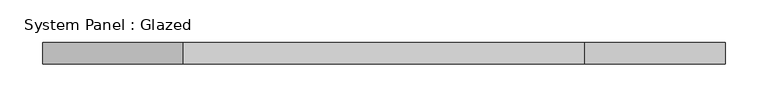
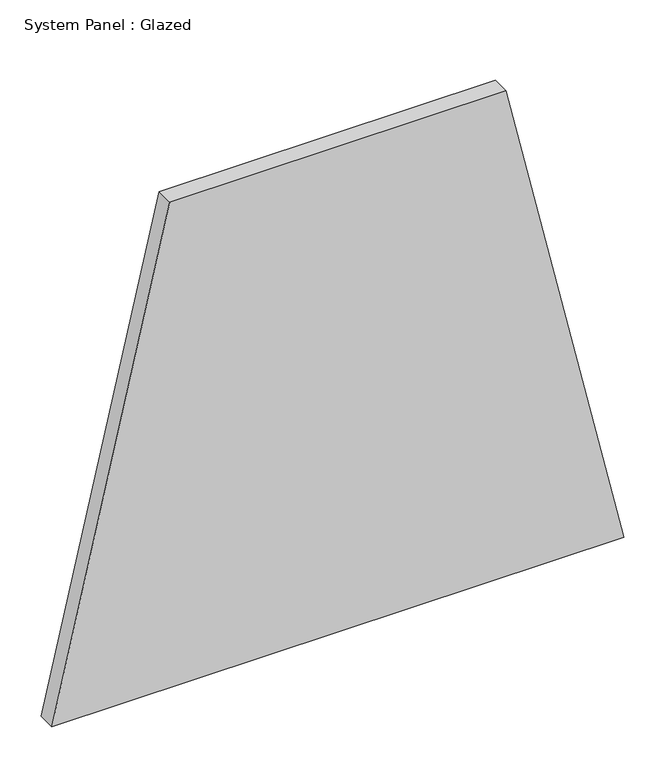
"""IFC4 building model written with IfcOpenShell, lengths in millimetres: plate geometry, System Panel : Glazed."""

from ifc_helpers import new_model, si_unit, frame, origin, place, context, project, spatial, polyline, outline, extrude, source, transform, mapped, element, save


def system_panel_glazed_afbe5211(model_context):
    return source(origin(), model_context, "Body", "SweptSolid", [
        extrude(outline(polyline([(0.0, -399.9402922), (0.0, 399.9402922), (717.2744852, 235.2478414), (717.2744852, -235.2478414), (0.0, -399.9402922)])), frame((0.0, 19.05, 0.0), z_axis=(0.0, 1.0, 0.0), x_axis=(0.0, 0.0, 1.0)), (0.0, 0.0, 1.0), 25.4),
    ])


if __name__ == "__main__":
    model = new_model("IFC4")
    model_context = context("Model", 3, world=origin())
    ifc_project = project(units=[si_unit("LENGTHUNIT", "METRE", prefix="MILLI")], contexts=[model_context])
    site = spatial("IfcSite", under=ifc_project)
    building = spatial("IfcBuilding", under=site)
    placement = place(None, origin())
    system_panel_glazed_shape = system_panel_glazed_afbe5211(model_context)
    element("IfcPlate", 1, ObjectType="System Panel : Glazed", at=placement, inside=building, context=model_context, shape_type="MappedRepresentation", body=[
        mapped(system_panel_glazed_shape, transform((0.0, 0.0, 0.0), x_axis=(1.0, 0.0, 0.0), y_axis=(0.0, 1.0, 0.0), z_axis=(0.0, 0.0, 1.0))),
    ])
    save(model, "model.ifc")
